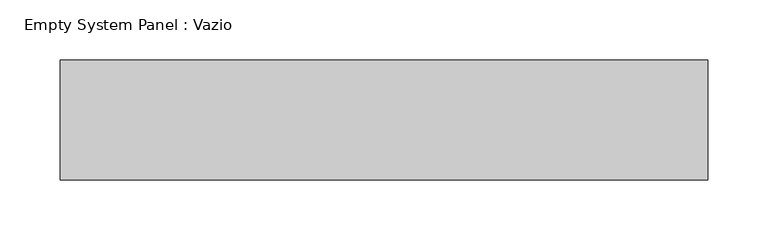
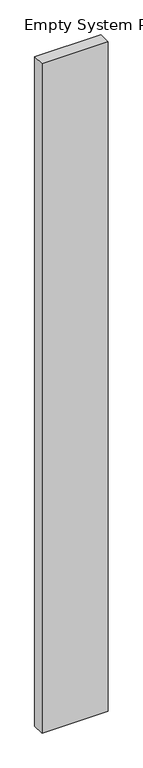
"""IFC4 building model written with IfcOpenShell, lengths in millimetres: plate geometry, Empty System Panel : Vazio."""

from ifc_helpers import new_model, si_unit, frame, origin, place, context, project, spatial, polyline, outline, extrude, source, transform, mapped, element, save


def empty_system_panel_vazio_1ed3ce67(model_context):
    return source(origin(), model_context, "Body", "SweptSolid", [
        extrude(outline(polyline([(0.0145758, -269.9156533), (0.0, 269.9156533), (5758.9284683, 269.8627872), (5758.9284683, -269.9156533), (0.0145758, -269.9156533)])), frame((0.0, 50.0, 0.0), z_axis=(0.0, 1.0, 0.0), x_axis=(0.0, 0.0, 1.0)), (0.0, 0.0, 1.0), 100.0),
    ])


if __name__ == "__main__":
    model = new_model("IFC4")
    model_context = context("Model", 3, world=origin())
    ifc_project = project(units=[si_unit("LENGTHUNIT", "METRE", prefix="MILLI")], contexts=[model_context])
    site = spatial("IfcSite", under=ifc_project)
    building = spatial("IfcBuilding", under=site)
    placement = place(None, origin())
    empty_system_panel_vazio_shape = empty_system_panel_vazio_1ed3ce67(model_context)
    element("IfcPlate", 1, ObjectType="Empty System Panel : Vazio", at=placement, inside=building, context=model_context, shape_type="MappedRepresentation", body=[
        mapped(empty_system_panel_vazio_shape, transform((0.0, 0.0, 0.0), x_axis=(1.0, 0.0, 0.0), y_axis=(0.0, 1.0, 0.0), z_axis=(0.0, 0.0, 1.0))),
    ])
    save(model, "model.ifc")
